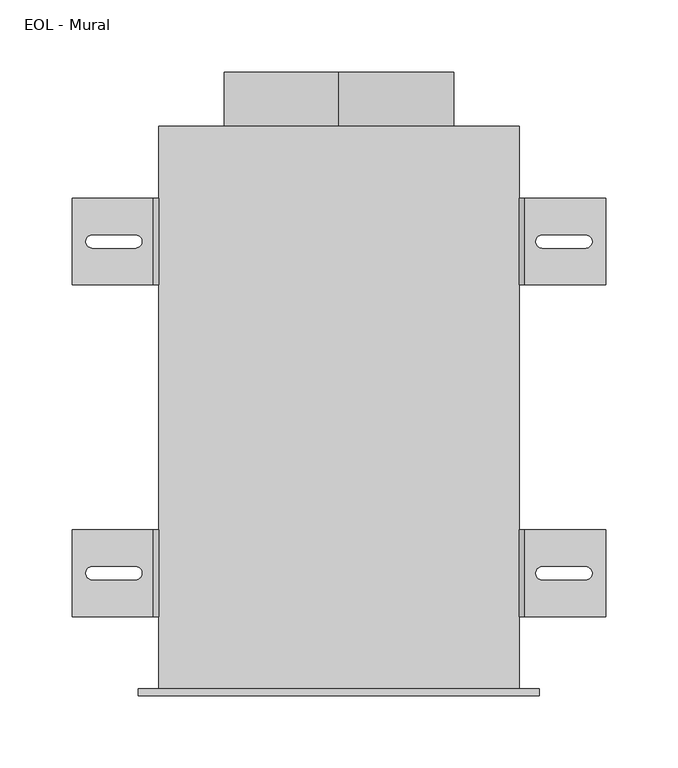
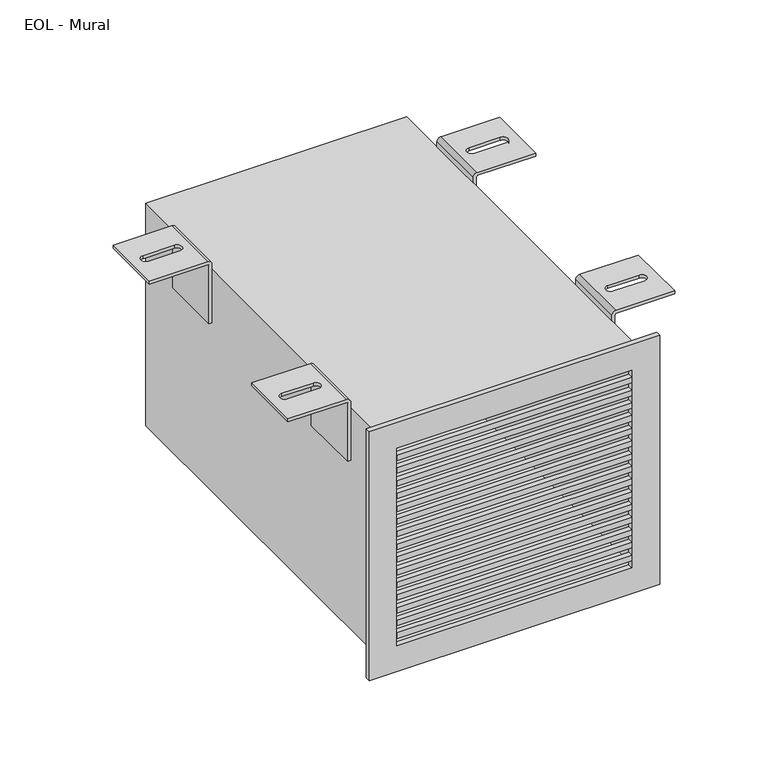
"""IFC4 building model written with IfcOpenShell, lengths in millimetres: air terminal geometry, EOL - Mural : EOL-M160-250x225-2."""

from ifc_helpers import new_model, si_unit, point, frame, origin, origin_2d, place, context, project, spatial, polyline, circle_curve, ellipse_curve, trimmed, segment, composite_curve, outline, extrude, source, transform, mapped, element, save
from ifc_brep_helpers import plane_surface, cylinder_surface, revolved_surface, extruded_surface, advanced_brep


def eol_mural_340b9d11(model_context):
    return source(origin(), model_context, "Body", "SolidModel", [
        advanced_brep(
        [(129.0013366, 110.0, 121.5), (185.0, 110.0, 121.5), (185.0, 110.0, 118.5), (129.0, 110.0, 118.5), (128.0, 110.0, 117.5), (128.0, 110.0, 58.5), (125.0, 110.0, 58.5), (125.0, 110.0, 117.4986634), (129.0013366, 50.0, 121.5), (125.0, 50.0, 117.4986634), (125.0, 50.0, 58.5), (128.0, 50.0, 58.5), (128.0, 50.0, 117.5), (129.0, 50.0, 118.5), (185.0, 50.0, 118.5), (185.0, 50.0, 121.5), (171.0287952, 75.4804328, 121.5), (141.0287952, 75.4804328, 121.5), (141.0287952, 84.4804328, 121.5), (171.0287952, 84.4804328, 121.5), (141.0287952, 75.4804328, 118.5), (171.0287952, 75.4804328, 118.5), (171.0287952, 84.4804328, 118.5), (141.0287952, 84.4804328, 118.5)],
        [
            (0, 1),
            (1, 2),
            (2, 3),
            (3, 4, circle_curve(frame((129.0, 110.0, 117.5), z_axis=(0.0, -1.0, 0.0), x_axis=(-1.0000000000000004, 0.0, 0.0)), 1.0)),
            (4, 5),
            (5, 6),
            (6, 7),
            (7, 0, circle_curve(frame((129.0013366, 110.0, 117.4986634), z_axis=(0.0, 1.0, 0.0), x_axis=(-1.0000000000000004, 0.0, 0.0)), 4.0013366)),
            (8, 9, circle_curve(frame((129.0013366, 50.0, 117.4986634), z_axis=(0.0, -1.0, 0.0), x_axis=(-1.0000000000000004, 0.0, 0.0)), 4.0013366)),
            (9, 10),
            (10, 11),
            (11, 12),
            (12, 13, circle_curve(frame((129.0, 50.0, 117.5), z_axis=(0.0, 1.0, 0.0), x_axis=(-1.0000000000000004, 0.0, 0.0)), 1.0)),
            (13, 14),
            (14, 15),
            (15, 8),
            (0, 8),
            (15, 1),
            (16, 17),
            (17, 18, circle_curve(frame((141.0287952, 79.9804328, 121.5), z_axis=(0.0, 0.0, -1.0), x_axis=(0.0, -1.0, 0.0)), 4.5)),
            (18, 19),
            (19, 16, circle_curve(frame((171.0287952, 79.9804328, 121.5), z_axis=(0.0, 0.0, -1.0), x_axis=(0.0, -1.0, 0.0)), 4.5)),
            (14, 2),
            (13, 3),
            (20, 21),
            (21, 22, ellipse_curve(frame((171.0287952, 79.9804328, 118.5), z_axis=(0.0, 0.0, 1.0), x_axis=(0.0, -1.0, 0.0)), 4.5, 4.5)),
            (22, 23),
            (23, 20, ellipse_curve(frame((141.0287952, 79.9804328, 118.5), z_axis=(0.0, 0.0, 1.0), x_axis=(0.0, -1.0, 0.0)), 4.5, 4.5)),
            (12, 4),
            (11, 5),
            (10, 6),
            (9, 7),
            (16, 21),
            (20, 17),
            (19, 22),
            (18, 23),
        ],
        [
            plane_surface(frame((185.0, 110.0, 121.5), z_axis=(0.0, 1.0, 0.0), x_axis=(1.0, 0.0, 0.0))),
            plane_surface(frame((185.0, 50.0, 121.5), z_axis=(0.0, -1.0, 0.0), x_axis=(-1.0, 0.0, 0.0))),
            plane_surface(frame((129.0013366, 110.0, 121.5), z_axis=(0.0, 0.0, 1.0), x_axis=(0.0, -1.0, 0.0))),
            plane_surface(frame((185.0, 110.0, 121.5), z_axis=(1.0, 0.0, 0.0), x_axis=(0.0, -1.0, 0.0))),
            plane_surface(frame((185.0, 110.0, 118.5), z_axis=(0.0, 0.0, -1.0), x_axis=(0.0, -1.0, 0.0))),
            revolved_surface(polyline([(128.0, 50.0, 117.5), (128.0, 110.00000000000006, 117.5)]), (129.0, 50.0, 117.5), (0.0, -1.0000000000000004, 0.0)),
            plane_surface(frame((128.0, 110.0, 117.5), z_axis=(1.0, 0.0, 0.0), x_axis=(0.0, -1.0, 0.0))),
            plane_surface(frame((128.0, 110.0, 58.5), z_axis=(0.0, 0.0, -1.0), x_axis=(0.0, -1.0, 0.0))),
            plane_surface(frame((125.0, 110.0, 58.5), z_axis=(-1.0, 0.0, 0.0), x_axis=(0.0, -1.0, 0.0))),
            cylinder_surface(frame((129.0013366, 50.0, 117.4986634), z_axis=(0.0, 1.0000000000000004, 0.0), x_axis=(-1.0000000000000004, 0.0, 0.0)), 4.0013366),
            plane_surface(frame((141.0287952, 75.4804328, 121.5), z_axis=(0.0, 1.0, 0.0), x_axis=(0.0, 0.0, -1.0))),
            extruded_surface(trimmed(ellipse_curve(frame((171.0287952, 79.9804328, 118.5), z_axis=(0.0, 0.0, 1.0), x_axis=(0.0, -1.0, 0.0)), 4.5, 4.5), [point((171.0287952, 75.4804328, 118.5))], [point((171.0287952, 84.4804328, 118.5))], True, "CARTESIAN"), (0.0, 0.0, -3.0), 3.0),
            plane_surface(frame((171.0287952, 84.4804328, 121.5), z_axis=(0.0, -1.0, 0.0), x_axis=(0.0, 0.0, -1.0))),
            extruded_surface(trimmed(ellipse_curve(frame((141.0287952, 79.9804328, 118.5), z_axis=(0.0, 0.0, 1.0), x_axis=(0.0, -1.0, 0.0)), 4.5, 4.5), [point((141.0287952, 84.4804328, 118.5))], [point((141.0287952, 75.4804328, 118.5))], True, "CARTESIAN"), (0.0, 0.0, -3.0), 3.0),
        ],
        [
            (0, [[1, 2, 3, 4, 5, 6, 7, 8]]),
            (1, [[9, 10, 11, 12, 13, 14, 15, 16]]),
            (2, [[-1, 17, -16, 18], [19, 20, 21, 22]]),
            (3, [[-2, -18, -15, 23]]),
            (4, [[-3, -23, -14, 24], [25, 26, 27, 28]]),
            (5, [[-4, -24, -13, 29]]),
            (6, [[-5, -29, -12, 30]]),
            (7, [[-6, -30, -11, 31]]),
            (8, [[-7, -31, -10, 32]]),
            (9, [[-8, -32, -9, -17]]),
            (10, [[33, -25, 34, -19]]),
            (11, [[-33, -22, 35, -26]]),
            (12, [[-35, -21, 36, -27]]),
            (13, [[-34, -28, -36, -20]]),
        ],
    ),
        advanced_brep(
        [(129.0013366, 340.0, 121.5), (185.0, 340.0, 121.5), (185.0, 340.0, 118.5), (129.0, 340.0, 118.5), (128.0, 340.0, 117.5), (128.0, 340.0, 58.5), (125.0, 340.0, 58.5), (125.0, 340.0, 117.4986634), (129.0013366, 280.0, 121.5), (125.0, 280.0, 117.4986634), (125.0, 280.0, 58.5), (128.0, 280.0, 58.5), (128.0, 280.0, 117.5), (129.0, 280.0, 118.5), (185.0, 280.0, 118.5), (185.0, 280.0, 121.5), (171.0287952, 305.4804328, 121.5), (141.0287952, 305.4804328, 121.5), (141.0287952, 314.4804328, 121.5), (171.0287952, 314.4804328, 121.5), (141.0287952, 305.4804328, 118.5), (171.0287952, 305.4804328, 118.5), (171.0287952, 314.4804328, 118.5), (141.0287952, 314.4804328, 118.5)],
        [
            (0, 1),
            (1, 2),
            (2, 3),
            (3, 4, circle_curve(frame((129.0, 340.0, 117.5), z_axis=(0.0, -1.0, 0.0), x_axis=(-1.0, 0.0, 0.0)), 1.0)),
            (4, 5),
            (5, 6),
            (6, 7),
            (7, 0, circle_curve(frame((129.0013366, 340.0, 117.4986634), z_axis=(0.0, 1.0, 0.0), x_axis=(-1.0, 0.0, 0.0)), 4.0013366)),
            (8, 9, circle_curve(frame((129.0013366, 280.0, 117.4986634), z_axis=(0.0, -1.0, 0.0), x_axis=(-1.0, 0.0, 0.0)), 4.0013366)),
            (9, 10),
            (10, 11),
            (11, 12),
            (12, 13, circle_curve(frame((129.0, 280.0, 117.5), z_axis=(0.0, 1.0, 0.0), x_axis=(-1.0, 0.0, 0.0)), 1.0)),
            (13, 14),
            (14, 15),
            (15, 8),
            (0, 8),
            (15, 1),
            (16, 17),
            (17, 18, circle_curve(frame((141.0287952, 309.9804328, 121.5), z_axis=(0.0, 0.0, -1.0), x_axis=(0.0, -1.0, 0.0)), 4.5)),
            (18, 19),
            (19, 16, circle_curve(frame((171.0287952, 309.9804328, 121.5), z_axis=(0.0, 0.0, -1.0), x_axis=(0.0, -1.0, 0.0)), 4.5)),
            (14, 2),
            (13, 3),
            (20, 21),
            (21, 22, ellipse_curve(frame((171.0287952, 309.9804328, 118.5), z_axis=(0.0, 0.0, 1.0), x_axis=(0.0, -1.0, 0.0)), 4.5, 4.5)),
            (22, 23),
            (23, 20, ellipse_curve(frame((141.0287952, 309.9804328, 118.5), z_axis=(0.0, 0.0, 1.0), x_axis=(0.0, -1.0, 0.0)), 4.5, 4.5)),
            (12, 4),
            (11, 5),
            (10, 6),
            (9, 7),
            (16, 21),
            (20, 17),
            (19, 22),
            (18, 23),
        ],
        [
            plane_surface(frame((185.0, 340.0, 121.5), z_axis=(0.0, 1.0, 0.0), x_axis=(1.0, 0.0, 0.0))),
            plane_surface(frame((185.0, 280.0, 121.5), z_axis=(0.0, -1.0, 0.0), x_axis=(-1.0, 0.0, 0.0))),
            plane_surface(frame((129.0013366, 340.0, 121.5), z_axis=(0.0, 0.0, 1.0), x_axis=(0.0, -1.0, 0.0))),
            plane_surface(frame((185.0, 340.0, 121.5), z_axis=(1.0, 0.0, 0.0), x_axis=(0.0, -1.0, 0.0))),
            plane_surface(frame((185.0, 340.0, 118.5), z_axis=(0.0, 0.0, -1.0), x_axis=(0.0, -1.0, 0.0))),
            revolved_surface(polyline([(128.0, 280.0, 117.5), (128.0, 340.0, 117.5)]), (129.0, 280.0, 117.5), (0.0, -1.0, 0.0)),
            plane_surface(frame((128.0, 340.0, 117.5), z_axis=(1.0, 0.0, 0.0), x_axis=(0.0, -1.0, 0.0))),
            plane_surface(frame((128.0, 340.0, 58.5), z_axis=(0.0, 0.0, -1.0), x_axis=(0.0, -1.0, 0.0))),
            plane_surface(frame((125.0, 340.0, 58.5), z_axis=(-1.0, 0.0, 0.0), x_axis=(0.0, -1.0, 0.0))),
            cylinder_surface(frame((129.0013366, 280.0, 117.4986634), z_axis=(0.0, 1.0, 0.0), x_axis=(-1.0, 0.0, 0.0)), 4.0013366),
            plane_surface(frame((141.0287952, 305.4804328, 121.5), z_axis=(0.0, 1.0, 0.0), x_axis=(0.0, 0.0, -1.0))),
            extruded_surface(trimmed(ellipse_curve(frame((171.0287952, 309.9804328, 118.5), z_axis=(0.0, 0.0, 1.0), x_axis=(0.0, -1.0, 0.0)), 4.5, 4.5), [point((171.0287952, 305.4804328, 118.5))], [point((171.0287952, 314.4804328, 118.5))], True, "CARTESIAN"), (0.0, 0.0, -3.0), 3.0),
            plane_surface(frame((171.0287952, 314.4804328, 121.5), z_axis=(0.0, -1.0, 0.0), x_axis=(0.0, 0.0, -1.0))),
            extruded_surface(trimmed(ellipse_curve(frame((141.0287952, 309.9804328, 118.5), z_axis=(0.0, 0.0, 1.0), x_axis=(0.0, -1.0, 0.0)), 4.5, 4.5), [point((141.0287952, 314.4804328, 118.5))], [point((141.0287952, 305.4804328, 118.5))], True, "CARTESIAN"), (0.0, 0.0, -3.0), 3.0),
        ],
        [
            (0, [[1, 2, 3, 4, 5, 6, 7, 8]]),
            (1, [[9, 10, 11, 12, 13, 14, 15, 16]]),
            (2, [[-1, 17, -16, 18], [19, 20, 21, 22]]),
            (3, [[-2, -18, -15, 23]]),
            (4, [[-3, -23, -14, 24], [25, 26, 27, 28]]),
            (5, [[-4, -24, -13, 29]]),
            (6, [[-5, -29, -12, 30]]),
            (7, [[-6, -30, -11, 31]]),
            (8, [[-7, -31, -10, 32]]),
            (9, [[-8, -32, -9, -17]]),
            (10, [[33, -25, 34, -19]]),
            (11, [[-33, -22, 35, -26]]),
            (12, [[-35, -21, 36, -27]]),
            (13, [[-34, -28, -36, -20]]),
        ],
    ),
        advanced_brep(
        [(-129.0013366, 50.0, 121.5), (-185.0, 50.0, 121.5), (-185.0, 50.0, 118.5), (-129.0, 50.0, 118.5), (-128.0, 50.0, 117.5), (-128.0, 50.0, 58.5), (-125.0, 50.0, 58.5), (-125.0, 50.0, 117.4986634), (-129.0013366, 110.0, 121.5), (-125.0, 110.0, 117.4986634), (-125.0, 110.0, 58.5), (-128.0, 110.0, 58.5), (-128.0, 110.0, 117.5), (-129.0, 110.0, 118.5), (-185.0, 110.0, 118.5), (-185.0, 110.0, 121.5), (-171.0287952, 84.5195672, 121.5), (-141.0287952, 84.5195672, 121.5), (-141.0287952, 75.5195672, 121.5), (-171.0287952, 75.5195672, 121.5), (-141.0287952, 84.5195672, 118.5), (-171.0287952, 84.5195672, 118.5), (-171.0287952, 75.5195672, 118.5), (-141.0287952, 75.5195672, 118.5)],
        [
            (0, 1),
            (1, 2),
            (2, 3),
            (3, 4, circle_curve(frame((-129.0, 50.0, 117.5), z_axis=(0.0, 1.0, 0.0), x_axis=(1.0, 0.0, 0.0)), 1.0)),
            (4, 5),
            (5, 6),
            (6, 7),
            (7, 0, circle_curve(frame((-129.0013366, 50.0, 117.4986634), z_axis=(0.0, -1.0, 0.0), x_axis=(1.0, 0.0, 0.0)), 4.0013366)),
            (8, 9, circle_curve(frame((-129.0013366, 110.0, 117.4986634), z_axis=(0.0, 1.0, 0.0), x_axis=(1.0, 0.0, 0.0)), 4.0013366)),
            (9, 10),
            (10, 11),
            (11, 12),
            (12, 13, circle_curve(frame((-129.0, 110.0, 117.5), z_axis=(0.0, -1.0, 0.0), x_axis=(1.0, 0.0, 0.0)), 1.0)),
            (13, 14),
            (14, 15),
            (15, 8),
            (0, 8),
            (15, 1),
            (16, 17),
            (17, 18, circle_curve(frame((-141.0287952, 80.0195672, 121.5), z_axis=(0.0, 0.0, -1.0), x_axis=(0.0, 1.0, 0.0)), 4.5)),
            (18, 19),
            (19, 16, circle_curve(frame((-171.0287952, 80.0195672, 121.5), z_axis=(0.0, 0.0, -1.0), x_axis=(0.0, 1.0, 0.0)), 4.5)),
            (14, 2),
            (13, 3),
            (20, 21),
            (21, 22, ellipse_curve(frame((-171.0287952, 80.0195672, 118.5), z_axis=(0.0, 0.0, 1.0), x_axis=(0.0, 1.0, 0.0)), 4.5, 4.5)),
            (22, 23),
            (23, 20, ellipse_curve(frame((-141.0287952, 80.0195672, 118.5), z_axis=(0.0, 0.0, 1.0), x_axis=(0.0, 1.0, 0.0)), 4.5, 4.5)),
            (12, 4),
            (11, 5),
            (10, 6),
            (9, 7),
            (16, 21),
            (20, 17),
            (19, 22),
            (18, 23),
        ],
        [
            plane_surface(frame((-185.0, 50.0, 121.5), z_axis=(0.0, -1.0, 0.0), x_axis=(-1.0, 0.0, 0.0))),
            plane_surface(frame((-185.0, 110.0, 121.5), z_axis=(0.0, 1.0, 0.0), x_axis=(1.0, 0.0, 0.0))),
            plane_surface(frame((-129.0013366, 50.0, 121.5), z_axis=(0.0, 0.0, 1.0), x_axis=(0.0, 1.0, 0.0))),
            plane_surface(frame((-185.0, 50.0, 121.5), z_axis=(-1.0, 0.0, 0.0), x_axis=(0.0, 1.0, 0.0))),
            plane_surface(frame((-185.0, 50.0, 118.5), z_axis=(0.0, 0.0, -1.0), x_axis=(0.0, 1.0, 0.0))),
            revolved_surface(polyline([(-128.0, 110.0, 117.5), (-128.0, 50.0, 117.5)]), (-129.0, 110.0, 117.5), (0.0, 1.0, 0.0)),
            plane_surface(frame((-128.0, 50.0, 117.5), z_axis=(-1.0, 0.0, 0.0), x_axis=(0.0, 1.0, 0.0))),
            plane_surface(frame((-128.0, 50.0, 58.5), z_axis=(0.0, 0.0, -1.0), x_axis=(0.0, 1.0, 0.0))),
            plane_surface(frame((-125.0, 50.0, 58.5), z_axis=(1.0, 0.0, 0.0), x_axis=(0.0, 1.0, 0.0))),
            cylinder_surface(frame((-129.0013366, 110.0, 117.4986634), z_axis=(0.0, -1.0, 0.0), x_axis=(1.0, 0.0, 0.0)), 4.0013366),
            plane_surface(frame((-141.0287952, 84.5195672, 121.5), z_axis=(0.0, -1.0, 0.0), x_axis=(0.0, 0.0, -1.0))),
            extruded_surface(trimmed(ellipse_curve(frame((-171.0287952, 80.0195672, 118.5), z_axis=(0.0, 0.0, 1.0), x_axis=(0.0, 1.0, 0.0)), 4.5, 4.5), [point((-171.0287952, 84.5195672, 118.5))], [point((-171.0287952, 75.5195672, 118.5))], True, "CARTESIAN"), (0.0, 0.0, -3.0), 3.0),
            plane_surface(frame((-171.0287952, 75.5195672, 121.5), z_axis=(0.0, 1.0, 0.0), x_axis=(0.0, 0.0, -1.0))),
            extruded_surface(trimmed(ellipse_curve(frame((-141.0287952, 80.0195672, 118.5), z_axis=(0.0, 0.0, 1.0), x_axis=(0.0, 1.0, 0.0)), 4.5, 4.5), [point((-141.0287952, 75.5195672, 118.5))], [point((-141.0287952, 84.5195672, 118.5))], True, "CARTESIAN"), (0.0, 0.0, -3.0), 3.0),
        ],
        [
            (0, [[1, 2, 3, 4, 5, 6, 7, 8]]),
            (1, [[9, 10, 11, 12, 13, 14, 15, 16]]),
            (2, [[-1, 17, -16, 18], [19, 20, 21, 22]]),
            (3, [[-2, -18, -15, 23]]),
            (4, [[-3, -23, -14, 24], [25, 26, 27, 28]]),
            (5, [[-4, -24, -13, 29]]),
            (6, [[-5, -29, -12, 30]]),
            (7, [[-6, -30, -11, 31]]),
            (8, [[-7, -31, -10, 32]]),
            (9, [[-8, -32, -9, -17]]),
            (10, [[33, -25, 34, -19]]),
            (11, [[-33, -22, 35, -26]]),
            (12, [[-35, -21, 36, -27]]),
            (13, [[-34, -28, -36, -20]]),
        ],
    ),
        advanced_brep(
        [(-129.0013366, 280.0, 121.5), (-185.0, 280.0, 121.5), (-185.0, 280.0, 118.5), (-129.0, 280.0, 118.5), (-128.0, 280.0, 117.5), (-128.0, 280.0, 58.5), (-125.0, 280.0, 58.5), (-125.0, 280.0, 117.4986634), (-129.0013366, 340.0, 121.5), (-125.0, 340.0, 117.4986634), (-125.0, 340.0, 58.5), (-128.0, 340.0, 58.5), (-128.0, 340.0, 117.5), (-129.0, 340.0, 118.5), (-185.0, 340.0, 118.5), (-185.0, 340.0, 121.5), (-171.0287952, 314.5195672, 121.5), (-141.0287952, 314.5195672, 121.5), (-141.0287952, 305.5195672, 121.5), (-171.0287952, 305.5195672, 121.5), (-141.0287952, 314.5195672, 118.5), (-171.0287952, 314.5195672, 118.5), (-171.0287952, 305.5195672, 118.5), (-141.0287952, 305.5195672, 118.5)],
        [
            (0, 1),
            (1, 2),
            (2, 3),
            (3, 4, circle_curve(frame((-129.0, 280.0, 117.5), z_axis=(0.0, 1.0, 0.0), x_axis=(1.0, 0.0, 0.0)), 1.0)),
            (4, 5),
            (5, 6),
            (6, 7),
            (7, 0, circle_curve(frame((-129.0013366, 280.0, 117.4986634), z_axis=(0.0, -1.0, 0.0), x_axis=(1.0, 0.0, 0.0)), 4.0013366)),
            (8, 9, circle_curve(frame((-129.0013366, 340.0, 117.4986634), z_axis=(0.0, 1.0, 0.0), x_axis=(1.0, 0.0, 0.0)), 4.0013366)),
            (9, 10),
            (10, 11),
            (11, 12),
            (12, 13, circle_curve(frame((-129.0, 340.0, 117.5), z_axis=(0.0, -1.0, 0.0), x_axis=(1.0, 0.0, 0.0)), 1.0)),
            (13, 14),
            (14, 15),
            (15, 8),
            (0, 8),
            (15, 1),
            (16, 17),
            (17, 18, circle_curve(frame((-141.0287952, 310.0195672, 121.5), z_axis=(0.0, 0.0, -1.0), x_axis=(0.0, 1.0, 0.0)), 4.5)),
            (18, 19),
            (19, 16, circle_curve(frame((-171.0287952, 310.0195672, 121.5), z_axis=(0.0, 0.0, -1.0), x_axis=(0.0, 1.0, 0.0)), 4.5)),
            (14, 2),
            (13, 3),
            (20, 21),
            (21, 22, ellipse_curve(frame((-171.0287952, 310.0195672, 118.5), z_axis=(0.0, 0.0, 1.0), x_axis=(0.0, 1.0, 0.0)), 4.5, 4.5)),
            (22, 23),
            (23, 20, ellipse_curve(frame((-141.0287952, 310.0195672, 118.5), z_axis=(0.0, 0.0, 1.0), x_axis=(0.0, 1.0, 0.0)), 4.5, 4.5)),
            (12, 4),
            (11, 5),
            (10, 6),
            (9, 7),
            (16, 21),
            (20, 17),
            (19, 22),
            (18, 23),
        ],
        [
            plane_surface(frame((-185.0, 280.0, 121.5), z_axis=(0.0, -1.0, 0.0), x_axis=(-1.0, 0.0, 0.0))),
            plane_surface(frame((-185.0, 340.0, 121.5), z_axis=(0.0, 1.0, 0.0), x_axis=(1.0, 0.0, 0.0))),
            plane_surface(frame((-129.0013366, 280.0, 121.5), z_axis=(0.0, 0.0, 1.0), x_axis=(0.0, 1.0, 0.0))),
            plane_surface(frame((-185.0, 280.0, 121.5), z_axis=(-1.0, 0.0, 0.0), x_axis=(0.0, 1.0, 0.0))),
            plane_surface(frame((-185.0, 280.0, 118.5), z_axis=(0.0, 0.0, -1.0), x_axis=(0.0, 1.0, 0.0))),
            revolved_surface(polyline([(-128.0, 340.0, 117.5), (-128.0, 280.0, 117.5)]), (-129.0, 340.0, 117.5), (0.0, 1.0, 0.0)),
            plane_surface(frame((-128.0, 280.0, 117.5), z_axis=(-1.0, 0.0, 0.0), x_axis=(0.0, 1.0, 0.0))),
            plane_surface(frame((-128.0, 280.0, 58.5), z_axis=(0.0, 0.0, -1.0), x_axis=(0.0, 1.0, 0.0))),
            plane_surface(frame((-125.0, 280.0, 58.5), z_axis=(1.0, 0.0, 0.0), x_axis=(0.0, 1.0, 0.0))),
            cylinder_surface(frame((-129.0013366, 340.0, 117.4986634), z_axis=(0.0, -1.0, 0.0), x_axis=(1.0, 0.0, 0.0)), 4.0013366),
            plane_surface(frame((-141.0287952, 314.5195672, 121.5), z_axis=(0.0, -1.0, 0.0), x_axis=(0.0, 0.0, -1.0))),
            extruded_surface(trimmed(ellipse_curve(frame((-171.0287952, 310.0195672, 118.5), z_axis=(0.0, 0.0, 1.0), x_axis=(0.0, 1.0, 0.0)), 4.5, 4.5), [point((-171.0287952, 314.5195672, 118.5))], [point((-171.0287952, 305.5195672, 118.5))], True, "CARTESIAN"), (0.0, 0.0, -3.0), 3.0),
            plane_surface(frame((-171.0287952, 305.5195672, 121.5), z_axis=(0.0, 1.0, 0.0), x_axis=(0.0, 0.0, -1.0))),
            extruded_surface(trimmed(ellipse_curve(frame((-141.0287952, 310.0195672, 118.5), z_axis=(0.0, 0.0, 1.0), x_axis=(0.0, 1.0, 0.0)), 4.5, 4.5), [point((-141.0287952, 305.5195672, 118.5))], [point((-141.0287952, 314.5195672, 118.5))], True, "CARTESIAN"), (0.0, 0.0, -3.0), 3.0),
        ],
        [
            (0, [[1, 2, 3, 4, 5, 6, 7, 8]]),
            (1, [[9, 10, 11, 12, 13, 14, 15, 16]]),
            (2, [[-1, 17, -16, 18], [19, 20, 21, 22]]),
            (3, [[-2, -18, -15, 23]]),
            (4, [[-3, -23, -14, 24], [25, 26, 27, 28]]),
            (5, [[-4, -24, -13, 29]]),
            (6, [[-5, -29, -12, 30]]),
            (7, [[-6, -30, -11, 31]]),
            (8, [[-7, -31, -10, 32]]),
            (9, [[-8, -32, -9, -17]]),
            (10, [[33, -25, 34, -19]]),
            (11, [[-33, -22, 35, -26]]),
            (12, [[-35, -21, 36, -27]]),
            (13, [[-34, -28, -36, -20]]),
        ],
    ),
        extrude(outline(composite_curve([segment(trimmed(circle_curve(origin_2d(), 80.0), [point((-80.0, 0.0))], [point((80.0, 0.0))], False, "CARTESIAN"), True, "CONTINUOUS"), segment(trimmed(circle_curve(origin_2d(), 80.0), [point((80.0, 0.0))], [point((-80.0, 0.0))], False, "CARTESIAN"), True, "CONTINUOUS")], self_intersect=False), holes=[composite_curve([segment(trimmed(circle_curve(origin_2d(), 79.0), [point((0.0, 79.0))], [point((0.0, -79.0))], True, "CARTESIAN"), True, "CONTINUOUS"), segment(trimmed(circle_curve(origin_2d(), 79.0), [point((0.0, -79.0))], [point((0.0, 79.0))], True, "CARTESIAN"), True, "CONTINUOUS")], self_intersect=False)]), frame((0.0, 390.0, 0.0), z_axis=(0.0, 1.0, 0.0), x_axis=(0.0, 0.0, 1.0)), (0.0, 0.0, 1.0), 37.5),
        extrude(outline(polyline([(112.5, 0.0), (112.5, -5.0), (-112.5, -5.0), (-112.5, 0.0), (112.5, 0.0)])), frame((0.0, 0.0, 87.15), z_axis=(0.0, 0.0, 1.0), x_axis=(1.0, 0.0, 0.0)), (0.0, 0.0, 1.0), 5.6),
        extrude(outline(polyline([(112.5, 0.0), (112.5, -5.0), (-112.5, -5.0), (-112.5, 0.0), (112.5, 0.0)])), frame((0.0, 0.0, 74.3), z_axis=(0.0, 0.0, 1.0), x_axis=(1.0, 0.0, 0.0)), (0.0, 0.0, 1.0), 5.6),
        extrude(outline(polyline([(112.5, 0.0), (112.5, -5.0), (-112.5, -5.0), (-112.5, 0.0), (112.5, 0.0)])), frame((0.0, 0.0, 61.45), z_axis=(0.0, 0.0, 1.0), x_axis=(1.0, 0.0, 0.0)), (0.0, 0.0, 1.0), 5.6),
        extrude(outline(polyline([(112.5, 0.0), (112.5, -5.0), (-112.5, -5.0), (-112.5, 0.0), (112.5, 0.0)])), frame((0.0, 0.0, 48.6), z_axis=(0.0, 0.0, 1.0), x_axis=(1.0, 0.0, 0.0)), (0.0, 0.0, 1.0), 5.6),
        extrude(outline(polyline([(112.5, 0.0), (112.5, -5.0), (-112.5, -5.0), (-112.5, 0.0), (112.5, 0.0)])), frame((0.0, 0.0, 35.75), z_axis=(0.0, 0.0, 1.0), x_axis=(1.0, 0.0, 0.0)), (0.0, 0.0, 1.0), 5.6),
        extrude(outline(polyline([(112.5, 0.0), (112.5, -5.0), (-112.5, -5.0), (-112.5, 0.0), (112.5, 0.0)])), frame((0.0, 0.0, 22.9), z_axis=(0.0, 0.0, 1.0), x_axis=(1.0, 0.0, 0.0)), (0.0, 0.0, 1.0), 5.6),
        extrude(outline(polyline([(112.5, 0.0), (112.5, -5.0), (-112.5, -5.0), (-112.5, 0.0), (112.5, 0.0)])), frame((0.0, 0.0, 10.05), z_axis=(0.0, 0.0, 1.0), x_axis=(1.0, 0.0, 0.0)), (0.0, 0.0, 1.0), 5.6),
        extrude(outline(polyline([(112.5, 0.0), (112.5, -5.0), (-112.5, -5.0), (-112.5, 0.0), (112.5, 0.0)])), frame((0.0, 0.0, -2.8), z_axis=(0.0, 0.0, 1.0), x_axis=(1.0, 0.0, 0.0)), (0.0, 0.0, 1.0), 5.6),
        extrude(outline(polyline([(112.5, 0.0), (112.5, -5.0), (-112.5, -5.0), (-112.5, 0.0), (112.5, 0.0)])), frame((0.0, 0.0, -15.65), z_axis=(0.0, 0.0, 1.0), x_axis=(1.0, 0.0, 0.0)), (0.0, 0.0, 1.0), 5.6),
        extrude(outline(polyline([(112.5, 0.0), (112.5, -5.0), (-112.5, -5.0), (-112.5, 0.0), (112.5, 0.0)])), frame((0.0, 0.0, -28.5), z_axis=(0.0, 0.0, 1.0), x_axis=(1.0, 0.0, 0.0)), (0.0, 0.0, 1.0), 5.6),
        extrude(outline(polyline([(112.5, 0.0), (112.5, -5.0), (-112.5, -5.0), (-112.5, 0.0), (112.5, 0.0)])), frame((0.0, 0.0, -41.35), z_axis=(0.0, 0.0, 1.0), x_axis=(1.0, 0.0, 0.0)), (0.0, 0.0, 1.0), 5.6),
        extrude(outline(polyline([(112.5, 0.0), (112.5, -5.0), (-112.5, -5.0), (-112.5, 0.0), (112.5, 0.0)])), frame((0.0, 0.0, -54.2), z_axis=(0.0, 0.0, 1.0), x_axis=(1.0, 0.0, 0.0)), (0.0, 0.0, 1.0), 5.6),
        extrude(outline(polyline([(112.5, 0.0), (112.5, -5.0), (-112.5, -5.0), (-112.5, 0.0), (112.5, 0.0)])), frame((0.0, 0.0, -67.05), z_axis=(0.0, 0.0, 1.0), x_axis=(1.0, 0.0, 0.0)), (0.0, 0.0, 1.0), 5.6),
        extrude(outline(polyline([(112.5, 0.0), (112.5, -5.0), (-112.5, -5.0), (-112.5, 0.0), (112.5, 0.0)])), frame((0.0, 0.0, -79.9), z_axis=(0.0, 0.0, 1.0), x_axis=(1.0, 0.0, 0.0)), (0.0, 0.0, 1.0), 5.6),
        extrude(outline(polyline([(112.5, 0.0), (112.5, -5.0), (-112.5, -5.0), (-112.5, 0.0), (112.5, 0.0)])), frame((0.0, 0.0, -92.75), z_axis=(0.0, 0.0, 1.0), x_axis=(1.0, 0.0, 0.0)), (0.0, 0.0, 1.0), 5.6),
        extrude(outline(polyline([(126.0, 139.0), (126.0, -139.0), (-126.0, -139.0), (-126.0, 139.0), (126.0, 139.0)]), holes=[polyline([(100.0, 112.5), (-100.0, 112.5), (-100.0, -112.5), (100.0, -112.5), (100.0, 112.5)])]), frame((0.0, -5.0, 0.0), z_axis=(0.0, 1.0, 0.0), x_axis=(0.0, 0.0, 1.0)), (0.0, 0.0, 1.0), 5.0),
        advanced_brep(
        [(125.0, 390.0, 112.5), (-125.0, 390.0, 112.5), (-125.0, 0.0, 112.5), (125.0, 0.0, 112.5), (125.0, 390.0, -112.5), (125.0, 0.0, -112.5), (-125.0, 0.0, -112.5), (-125.0, 390.0, -112.5), (-79.0, 390.0, 0.0), (79.0, 390.0, 0.0), (-120.0, 0.0, 107.5), (120.0, 0.0, 107.5), (120.0, 0.0, -107.5), (-120.0, 0.0, -107.5), (120.0, 385.0, 107.5), (-120.0, 385.0, 107.5), (120.0, 385.0, -107.5), (-120.0, 385.0, -107.5), (79.0, 385.0, 0.0), (-79.0, 385.0, 0.0)],
        [
            (0, 1),
            (1, 2),
            (2, 3),
            (3, 0),
            (4, 5),
            (5, 6),
            (6, 7),
            (7, 4),
            (0, 4),
            (7, 1),
            (8, 9, circle_curve(frame((0.0, 390.0, 0.0), z_axis=(0.0, -1.0, 0.0), x_axis=(1.0, 0.0, 0.0)), 79.0)),
            (9, 8, circle_curve(frame((0.0, 390.0, 0.0), z_axis=(0.0, -1.0, 0.0), x_axis=(1.0, 0.0, 0.0)), 79.0)),
            (6, 2),
            (5, 3),
            (10, 11),
            (11, 12),
            (12, 13),
            (13, 10),
            (14, 11),
            (10, 15),
            (15, 14),
            (16, 17),
            (17, 13),
            (12, 16),
            (15, 17),
            (16, 14),
            (18, 19, circle_curve(frame((0.0, 385.0, 0.0), z_axis=(0.0, 1.0, 0.0), x_axis=(1.0, 0.0, 0.0)), 79.0)),
            (19, 18, circle_curve(frame((0.0, 385.0, 0.0), z_axis=(0.0, 1.0, 0.0), x_axis=(1.0, 0.0, 0.0)), 79.0)),
            (8, 19),
            (18, 9),
        ],
        [
            plane_surface(frame((-125.0, 390.0, 112.5), z_axis=(0.0, 0.0, 1.0), x_axis=(-1.0, 0.0, 0.0))),
            plane_surface(frame((-125.0, 390.0, -112.5), z_axis=(0.0, 0.0, -1.0), x_axis=(1.0, 0.0, 0.0))),
            plane_surface(frame((125.0, 390.0, 112.5), z_axis=(0.0, 1.0, 0.0), x_axis=(0.0, 0.0, -1.0))),
            plane_surface(frame((-125.0, 390.0, 112.5), z_axis=(-1.0, 0.0, 0.0), x_axis=(0.0, 0.0, -1.0))),
            plane_surface(frame((-125.0, 0.0, 112.5), z_axis=(0.0, -1.0, 0.0), x_axis=(0.0, 0.0, -1.0))),
            plane_surface(frame((125.0, 0.0, 112.5), z_axis=(1.0, 0.0, 0.0), x_axis=(0.0, 0.0, -1.0))),
            plane_surface(frame((-120.0, 385.0, 107.5), z_axis=(0.0, 0.0, -1.0), x_axis=(-1.0, 0.0, 0.0))),
            plane_surface(frame((-120.0, 385.0, -107.5), z_axis=(0.0, 0.0, 1.0), x_axis=(1.0, 0.0, 0.0))),
            plane_surface(frame((120.0, 385.0, 107.5), z_axis=(0.0, -1.0, 0.0), x_axis=(0.0, 0.0, -1.0))),
            plane_surface(frame((-120.0, 385.0, 107.5), z_axis=(1.0, 0.0, 0.0), x_axis=(0.0, 0.0, -1.0))),
            plane_surface(frame((120.0, 0.0, 107.5), z_axis=(-1.0, 0.0, 0.0), x_axis=(0.0, 0.0, -1.0))),
            revolved_surface(polyline([(79.0, 385.0, 0.0), (79.0, 390.0, 0.0)]), (0.0, 427.5, 0.0), (0.0, -1.0, 0.0)),
        ],
        [
            (0, [[1, 2, 3, 4]]),
            (1, [[5, 6, 7, 8]]),
            (2, [[-1, 9, -8, 10], [11, 12]]),
            (3, [[-2, -10, -7, 13]]),
            (4, [[-3, -13, -6, 14], [15, 16, 17, 18]]),
            (5, [[-4, -14, -5, -9]]),
            (6, [[19, -15, 20, 21]]),
            (7, [[22, 23, -17, 24]]),
            (8, [[-21, 25, -22, 26], [27, 28]]),
            (9, [[-20, -18, -23, -25]]),
            (10, [[-19, -26, -24, -16]]),
            (11, [[29, -27, 30, -11]]),
            (11, [[-29, -12, -30, -28]]),
        ],
    ),
    ])


if __name__ == "__main__":
    model = new_model("IFC4")
    model_context = context("Model", 3, world=origin())
    ifc_project = project(units=[si_unit("LENGTHUNIT", "METRE", prefix="MILLI")], contexts=[model_context])
    site = spatial("IfcSite", under=ifc_project)
    building = spatial("IfcBuilding", under=site)
    placement = place(None, origin())
    eol_mural_shape = eol_mural_340b9d11(model_context)
    element("IfcAirTerminal", 1, ObjectType="EOL - Mural : EOL-M160-250x225-2", at=placement, inside=building, context=model_context, shape_type="MappedRepresentation", body=[
        mapped(eol_mural_shape, transform((0.0, 0.0, 0.0), x_axis=(1.0, 0.0, 0.0), y_axis=(0.0, 1.0, 0.0), z_axis=(0.0, 0.0, 1.0))),
    ])
    save(model, "model.ifc")
